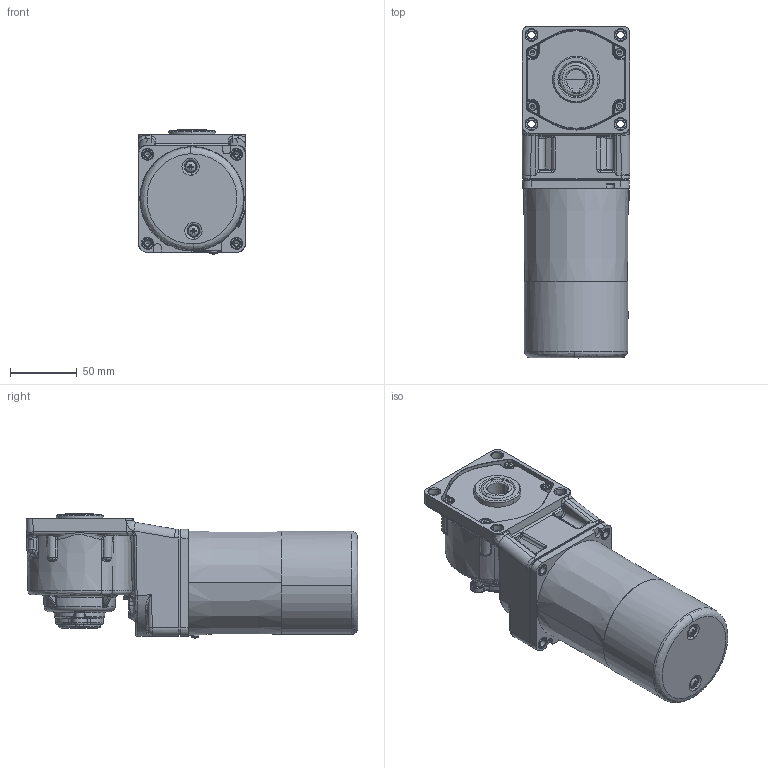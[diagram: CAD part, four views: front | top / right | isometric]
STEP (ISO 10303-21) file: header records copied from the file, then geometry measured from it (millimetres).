
FILE_DESCRIPTION (( 'STEP AP203' ), '1' );
FILE_NAME ('4RK25GN-CM(4GN3RC-180RC)ÐÂ.stp', '2022-02-25T05:11:36', ( 'PC' ), ( 'Microsoft' ), 'SwSTEP 2.0', 'SolidWorks 2014', '' );
FILE_SCHEMA (( 'CONFIG_CONTROL_DESIGN' ));
Length unit declared in the file: millimetre
Products named in the file (13): 4RK25GN-CM(4GN3RC-180RC)陔; 80諾陑怀堤粣; hexagon socket head cap screws gb_GB_FASTENER_SCREWS_HSHCS M4X12-N; M4; 4IK25GN-C_5; 80SCZ; 80綴傷裔; 80SCHXQ; zd-4gn1000rc-504-001-20211209（实心外形）; 90HXQ; cross recessed pan head screws gb_GB_CROSS_SCREWS_TYPE1 M3X6-6  H type-N; PRT0006; 80眻褒眊裔
Assembly tree (17 placements, depth 2):
  4RK25GN-CM(4GN3RC-180RC)陔
    80綴傷裔
    zd-4gn1000rc-504-001-20211209（实心外形）
    cross recessed pan head screws gb_GB_CROSS_SCREWS_TYPE1 M3X6-6  H type-N  x2
    80眻褒眊裔
    80諾陑怀堤粣
    hexagon socket head cap screws gb_GB_FASTENER_SCREWS_HSHCS M4X12-N  x4
    M4  x2
    4IK25GN-C_5
    80SCZ
    80SCHXQ
    90HXQ
    PRT0006
Bounding box: 80.6 x 247.79 x 92.81 mm (x, y, z)
Volume: 650714.5 mm3; surface area: 182700.2 mm2
Topology: 17 solids, 18 shells, 1761 faces, 4125 edges, 2387 vertices
Faces by surface type: cone 471, cylinder 457, bspline 426, plane 333, torus 54, sphere 20
Entity records: 73066 total; most frequent: CARTESIAN_POINT 41030, ORIENTED_EDGE 6966, DIRECTION 5556, EDGE_CURVE 3483, AXIS2_PLACEMENT_3D 2226, VERTEX_POINT 2069, EDGE_LOOP 1606, ADVANCED_FACE 1500
